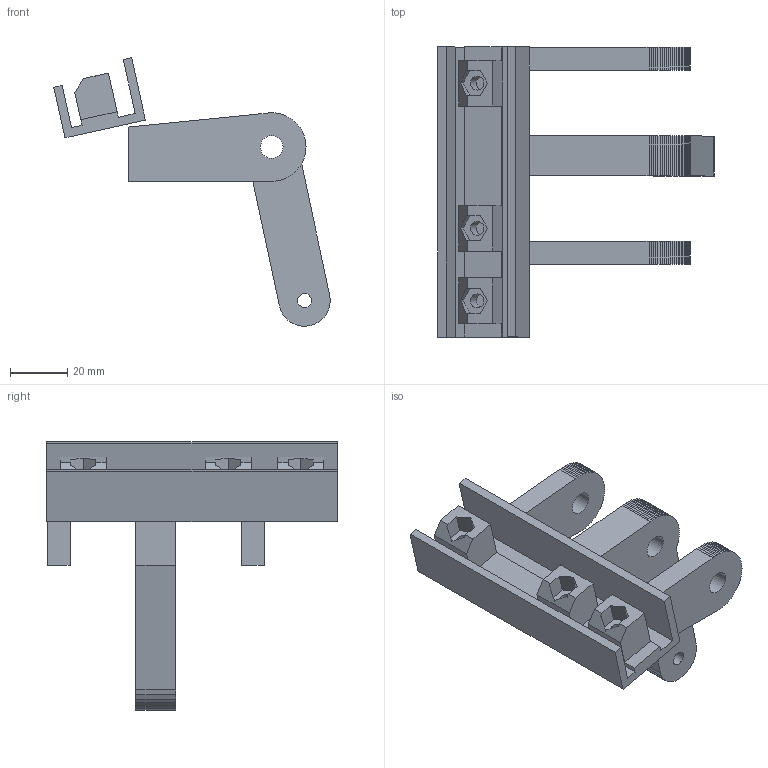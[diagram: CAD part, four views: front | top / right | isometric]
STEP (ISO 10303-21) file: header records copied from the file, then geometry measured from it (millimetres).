
FILE_DESCRIPTION(('Open CASCADE Model'),'2;1');
FILE_NAME('Open CASCADE Shape Model','2026-10-15T20:06:57',('Author'),( 'Open CASCADE'),'Open CASCADE STEP processor 7.9','Open CASCADE 7.9' ,'Unknown');
FILE_SCHEMA(('AUTOMOTIVE_DESIGN { 1 0 10303 214 1 1 1 1 }'));
Length unit declared in the file: millimetre
Products named in the file (5): Open CASCADE STEP translator 7.9 1; Open CASCADE STEP translator 7.9 1.1; Open CASCADE STEP translator 7.9 1.2; Open CASCADE STEP translator 7.9 1.3; Open CASCADE STEP translator 7.9 1.4
Assembly tree (4 placements, depth 2):
  Open CASCADE STEP translator 7.9 1
    Open CASCADE STEP translator 7.9 1.1
    Open CASCADE STEP translator 7.9 1.2
    Open CASCADE STEP translator 7.9 1.3
    Open CASCADE STEP translator 7.9 1.4
Bounding box: 96.82 x 101.6 x 94.05 mm (x, y, z)
Volume: 78667.3 mm3; surface area: 33967.3 mm2
Topology: 4 solids, 4 shells, 233 faces, 666 edges, 444 vertices
Faces by surface type: plane 226, cylinder 7
Full cylindrical faces by diameter (mm): 4.8 x3, 4.9 x1, 8 x3
Entity records: 16172 total; most frequent: CARTESIAN_POINT 2838, DIRECTION 2400, LINE 1896, VECTOR 1896, ORIENTED_EDGE 1332, PCURVE 1332, DEFINITIONAL_REPRESENTATION 1332, EDGE_CURVE 666
